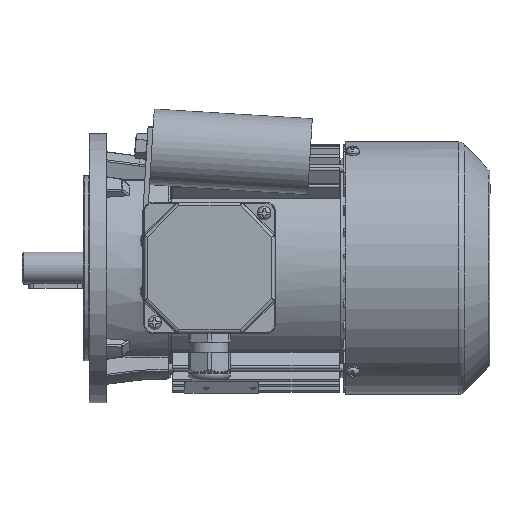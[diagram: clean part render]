
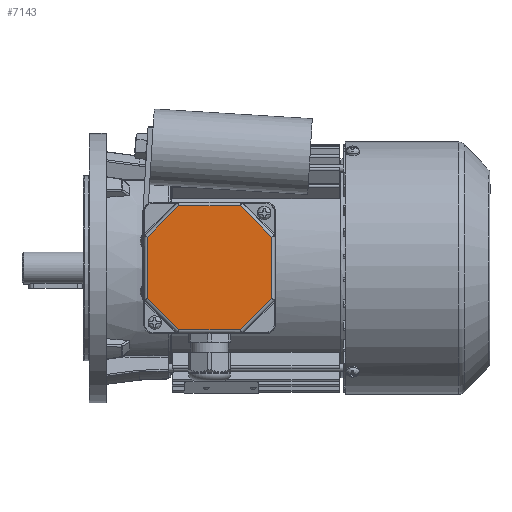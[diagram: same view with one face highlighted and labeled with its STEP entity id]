
A CAD part, top view. The second image highlights one B-rep face of the part: STEP entity #7143.
In plain terms, the highlighted planar face has unit normal (0, 0, 1).
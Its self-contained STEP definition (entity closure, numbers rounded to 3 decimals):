
#7143 = ADVANCED_FACE( '', ( #15044 ), #15045, .T. );
#15044 = FACE_OUTER_BOUND( '', #53246, .T. );
#15045 = PLANE( '', #53247 );
#53246 = EDGE_LOOP( '', ( #84924, #84925, #84926, #84927, #84928, #84929, #84930, #84931 ) );
#53247 = AXIS2_PLACEMENT_3D( '', #84932, #84933, #84934 );
#84924 = ORIENTED_EDGE( '', *, *, #101885, .T. );
#84925 = ORIENTED_EDGE( '', *, *, #101731, .T. );
#84926 = ORIENTED_EDGE( '', *, *, #100816, .T. );
#84927 = ORIENTED_EDGE( '', *, *, #101886, .T. );
#84928 = ORIENTED_EDGE( '', *, *, #97854, .T. );
#84929 = ORIENTED_EDGE( '', *, *, #97894, .T. );
#84930 = ORIENTED_EDGE( '', *, *, #100113, .T. );
#84931 = ORIENTED_EDGE( '', *, *, #94964, .T. );
#84932 = CARTESIAN_POINT( '', ( -39., 39., 12. ) );
#84933 = DIRECTION( '', ( 0., 0., 1. ) );
#84934 = DIRECTION( '', ( 1., 0., 0. ) );
#94964 = EDGE_CURVE( '', #105868, #105866, #105869, .T. );
#97854 = EDGE_CURVE( '', #110678, #110679, #110680, .F. );
#97894 = EDGE_CURVE( '', #110679, #110739, #110740, .T. );
#100113 = EDGE_CURVE( '', #110739, #105868, #114037, .F. );
#100816 = EDGE_CURVE( '', #114966, #114967, #114968, .F. );
#101731 = EDGE_CURVE( '', #115523, #114966, #116142, .T. );
#101885 = EDGE_CURVE( '', #105866, #115523, #116329, .F. );
#101886 = EDGE_CURVE( '', #114967, #110678, #116330, .T. );
#105866 = VERTEX_POINT( '', #129232 );
#105868 = VERTEX_POINT( '', #129234 );
#105869 = LINE( '', #129235, #129236 );
#110678 = VERTEX_POINT( '', #145960 );
#110679 = VERTEX_POINT( '', #145961 );
#110680 = LINE( '', #145962, #145963 );
#110739 = VERTEX_POINT( '', #146368 );
#110740 = LINE( '', #146369, #146370 );
#114037 = LINE( '', #156339, #156340 );
#114966 = VERTEX_POINT( '', #159246 );
#114967 = VERTEX_POINT( '', #159247 );
#114968 = LINE( '', #159248, #159249 );
#115523 = VERTEX_POINT( '', #161049 );
#116142 = LINE( '', #163014, #163015 );
#116329 = LINE( '', #163674, #163675 );
#116330 = LINE( '', #163676, #163677 );
#129232 = CARTESIAN_POINT( '', ( 36.825, -18.255, 12. ) );
#129234 = CARTESIAN_POINT( '', ( 18.255, -36.825, 12. ) );
#129235 = CARTESIAN_POINT( '', ( 37.401, -17.679, 12. ) );
#129236 = VECTOR( '', #169680, 1000. );
#145960 = CARTESIAN_POINT( '', ( -36.825, 18.255, 12. ) );
#145961 = CARTESIAN_POINT( '', ( -36.825, -18.255, 12. ) );
#145962 = CARTESIAN_POINT( '', ( -36.825, -19.069, 12. ) );
#145963 = VECTOR( '', #172955, 1000. );
#146368 = CARTESIAN_POINT( '', ( -18.255, -36.825, 12. ) );
#146369 = CARTESIAN_POINT( '', ( -17.679, -37.401, 12. ) );
#146370 = VECTOR( '', #172986, 1000. );
#156339 = CARTESIAN_POINT( '', ( 19.069, -36.825, 12. ) );
#156340 = VECTOR( '', #175823, 1000. );
#159246 = CARTESIAN_POINT( '', ( 18.255, 36.825, 12. ) );
#159247 = CARTESIAN_POINT( '', ( -18.255, 36.825, 12. ) );
#159248 = CARTESIAN_POINT( '', ( -19.069, 36.825, 12. ) );
#159249 = VECTOR( '', #176524, 1000. );
#161049 = CARTESIAN_POINT( '', ( 36.825, 18.255, 12. ) );
#163014 = CARTESIAN_POINT( '', ( 17.679, 37.401, 12. ) );
#163015 = VECTOR( '', #177343, 1000. );
#163674 = CARTESIAN_POINT( '', ( 36.825, 19.069, 12. ) );
#163675 = VECTOR( '', #177488, 1000. );
#163676 = CARTESIAN_POINT( '', ( -37.401, 17.679, 12. ) );
#163677 = VECTOR( '', #177489, 1000. );
#169680 = DIRECTION( '', ( 0.707, 0.707, 0. ) );
#172955 = DIRECTION( '', ( 0., 1., 0. ) );
#172986 = DIRECTION( '', ( 0.707, -0.707, 0. ) );
#175823 = DIRECTION( '', ( -1., 0., 0. ) );
#176524 = DIRECTION( '', ( 1., 0., 0. ) );
#177343 = DIRECTION( '', ( -0.707, 0.707, 0. ) );
#177488 = DIRECTION( '', ( 0., -1., 0. ) );
#177489 = DIRECTION( '', ( -0.707, -0.707, 0. ) );
